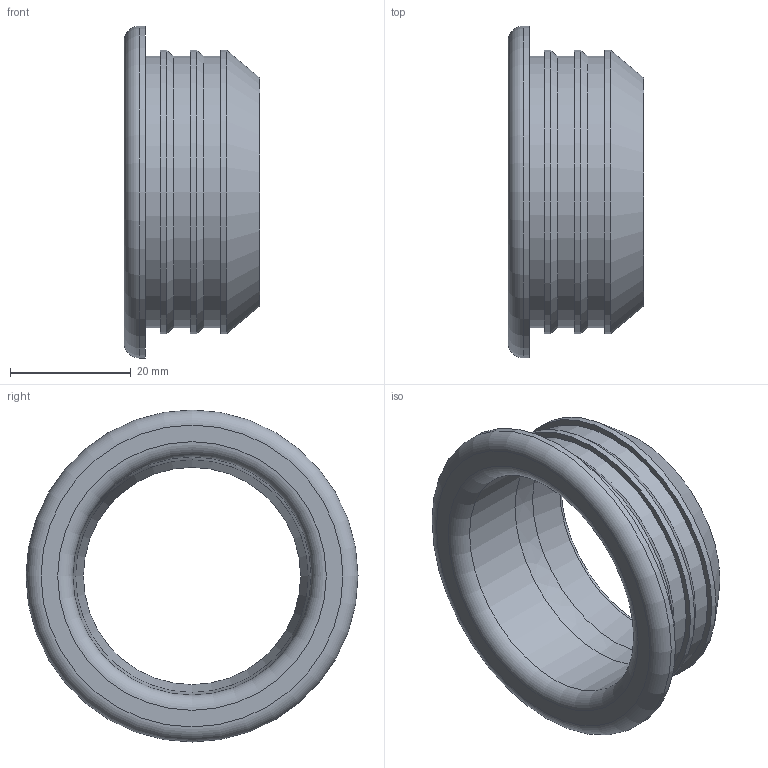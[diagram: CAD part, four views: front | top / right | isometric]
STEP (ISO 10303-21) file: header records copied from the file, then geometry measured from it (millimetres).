
FILE_DESCRIPTION(/* description */ (''),/* implementation_level */ '2;1');
FILE_NAME(/* name */ 'H:\Geberit-Teile\Export\Manschetten ART\stp\152496.stp',/* time_stamp */ '2014-05-12T13:19:02+02:00',/* author */ ('seihe2'),/* organization */ (''),/* preprocessor_version */ 'ST-DEVELOPER v15.2',/* originating_system */ 'Autodesk Inventor 2014',/* authorisation */ '');
FILE_SCHEMA (('AUTOMOTIVE_DESIGN { 1 0 10303 214 3 1 1 }'));
Length unit declared in the file: millimetre
Products named in the file (1): 152496
Bounding box: 22.5 x 55 x 55 mm (x, y, z)
Volume: 11081.3 mm3; surface area: 8502 mm2
Topology: 1 solids, 1 shells, 22 faces, 40 edges, 24 vertices
Faces by surface type: cylinder 8, plane 6, cone 4, torus 3, bspline 1
Full cylindrical faces by diameter (mm): 39.5 x1, 45 x3, 47 x3, 55 x1
Entity records: 537 total; most frequent: CARTESIAN_POINT 100, DIRECTION 92, ORIENTED_EDGE 50, AXIS2_PLACEMENT_3D 46, EDGE_LOOP 43, FACE_BOUND 25, EDGE_CURVE 25, CIRCLE 24
